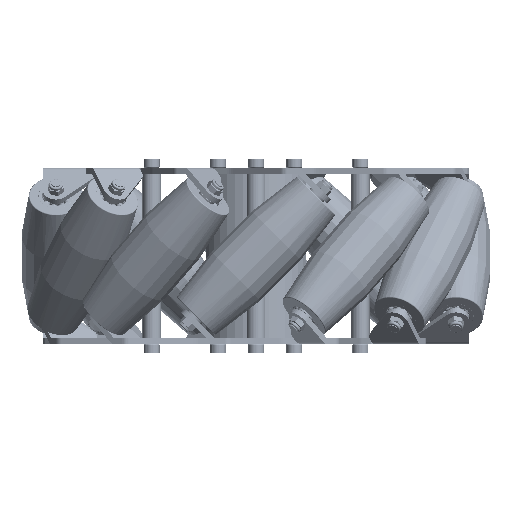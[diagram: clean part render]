
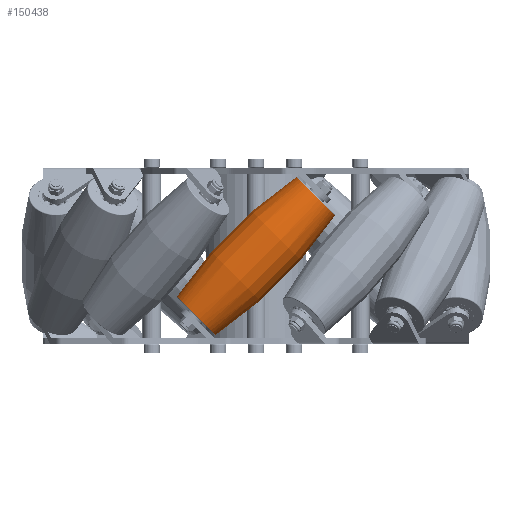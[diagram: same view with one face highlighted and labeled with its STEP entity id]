
A CAD part, left-side view. The second image highlights one B-rep face of the part: STEP entity #150438.
In plain terms, the highlighted face is a revolution surface.
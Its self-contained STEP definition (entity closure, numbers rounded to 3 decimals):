
#150312 = EDGE_CURVE('',#150313,#150315,#150317,.T.);
#150313 = VERTEX_POINT('',#150314);
#150314 = CARTESIAN_POINT('',(21.866,-107.9,42.616));
#150315 = VERTEX_POINT('',#150316);
#150316 = CARTESIAN_POINT('',(42.616,-107.9,21.866));
#150317 = SURFACE_CURVE('',#150318,(#150323,#150335),.PCURVE_S1.);
#150318 = CIRCLE('',#150319,14.673);
#150319 = AXIS2_PLACEMENT_3D('',#150320,#150321,#150322);
#150320 = CARTESIAN_POINT('',(32.241,-107.9,32.241));
#150321 = DIRECTION('',(0.707,0.,0.707
    ));
#150322 = DIRECTION('',(-0.707,0.,
    0.707));
#150323 = PCURVE('',#150324,#150329);
#150324 = TOROIDAL_SURFACE('',#150325,14.182,0.5);
#150325 = AXIS2_PLACEMENT_3D('',#150326,#150327,#150328);
#150326 = CARTESIAN_POINT('',(32.173,-107.9,32.173));
#150327 = DIRECTION('',(0.707,0.,0.707
    ));
#150328 = DIRECTION('',(0.707,0.,
    -0.707));
#150329 = DEFINITIONAL_REPRESENTATION('',(#150330),#150334);
#150330 = LINE('',#150331,#150332);
#150331 = CARTESIAN_POINT('',(-3.142,0.194));
#150332 = VECTOR('',#150333,1.);
#150333 = DIRECTION('',(1.,0.));
#150334 = ( GEOMETRIC_REPRESENTATION_CONTEXT(2) 
PARAMETRIC_REPRESENTATION_CONTEXT() REPRESENTATION_CONTEXT('2D SPACE',''
  ) );
#150335 = PCURVE('',#150336,#150348);
#150336 = SURFACE_OF_REVOLUTION('',#150337,#150345);
#150337 = B_SPLINE_CURVE_WITH_KNOTS('',6,(#150338,#150339,#150340,
    #150341,#150342,#150343,#150344),.UNSPECIFIED.,.F.,.F.,(7,7),(
    2.948,3.335),.PIECEWISE_BEZIER_KNOTS.);
#150338 = CARTESIAN_POINT('',(-21.866,-107.9,-42.616));
#150339 = CARTESIAN_POINT('',(-9.173,-107.9,-34.085));
#150340 = CARTESIAN_POINT('',(2.859,-107.9,-24.57));
#150341 = CARTESIAN_POINT('',(14.136,-107.9,-14.136));
#150342 = CARTESIAN_POINT('',(24.57,-107.9,-2.859));
#150343 = CARTESIAN_POINT('',(34.085,-107.9,9.173));
#150344 = CARTESIAN_POINT('',(42.616,-107.9,21.866));
#150345 = AXIS1_PLACEMENT('',#150346,#150347);
#150346 = CARTESIAN_POINT('',(0.,-107.9,
    0.));
#150347 = DIRECTION('',(-0.707,0.,
    -0.707));
#150348 = DEFINITIONAL_REPRESENTATION('',(#150349),#150353);
#150349 = LINE('',#150350,#150351);
#150350 = CARTESIAN_POINT('',(-3.142,3.335));
#150351 = VECTOR('',#150352,1.);
#150352 = DIRECTION('',(-1.,0.));
#150353 = ( GEOMETRIC_REPRESENTATION_CONTEXT(2) 
PARAMETRIC_REPRESENTATION_CONTEXT() REPRESENTATION_CONTEXT('2D SPACE',''
  ) );
#150438 = ADVANCED_FACE('',(#150439),#150336,.F.);
#150439 = FACE_BOUND('',#150440,.T.);
#150440 = EDGE_LOOP('',(#150441,#150477,#150506,#150528));
#150441 = ORIENTED_EDGE('',*,*,#150442,.T.);
#150442 = EDGE_CURVE('',#150313,#150443,#150445,.T.);
#150443 = VERTEX_POINT('',#150444);
#150444 = CARTESIAN_POINT('',(-42.616,-107.9,-21.866));
#150445 = SURFACE_CURVE('',#150446,(#150451,#150458),.PCURVE_S1.);
#150446 = CIRCLE('',#150447,237.);
#150447 = AXIS2_PLACEMENT_3D('',#150448,#150449,#150450);
#150448 = CARTESIAN_POINT('',(154.079,-107.9,
    -154.079));
#150449 = DIRECTION('',(0.,-1.,0.));
#150450 = DIRECTION('',(1.,0.,0.));
#150451 = PCURVE('',#150336,#150452);
#150452 = DEFINITIONAL_REPRESENTATION('',(#150453),#150457);
#150453 = LINE('',#150454,#150455);
#150454 = CARTESIAN_POINT('',(-3.142,5.498));
#150455 = VECTOR('',#150456,1.);
#150456 = DIRECTION('',(0.,-1.));
#150457 = ( GEOMETRIC_REPRESENTATION_CONTEXT(2) 
PARAMETRIC_REPRESENTATION_CONTEXT() REPRESENTATION_CONTEXT('2D SPACE',''
  ) );
#150458 = PCURVE('',#150459,#150471);
#150459 = SURFACE_OF_REVOLUTION('',#150460,#150468);
#150460 = B_SPLINE_CURVE_WITH_KNOTS('',6,(#150461,#150462,#150463,
    #150464,#150465,#150466,#150467),.UNSPECIFIED.,.F.,.F.,(7,7),(
    2.948,3.335),.PIECEWISE_BEZIER_KNOTS.);
#150461 = CARTESIAN_POINT('',(-21.866,-107.9,-42.616));
#150462 = CARTESIAN_POINT('',(-9.173,-107.9,-34.085));
#150463 = CARTESIAN_POINT('',(2.859,-107.9,-24.57));
#150464 = CARTESIAN_POINT('',(14.136,-107.9,-14.136));
#150465 = CARTESIAN_POINT('',(24.57,-107.9,-2.859));
#150466 = CARTESIAN_POINT('',(34.085,-107.9,9.173));
#150467 = CARTESIAN_POINT('',(42.616,-107.9,21.866));
#150468 = AXIS1_PLACEMENT('',#150469,#150470);
#150469 = CARTESIAN_POINT('',(0.,-107.9,
    0.));
#150470 = DIRECTION('',(-0.707,0.,
    -0.707));
#150471 = DEFINITIONAL_REPRESENTATION('',(#150472),#150476);
#150472 = LINE('',#150473,#150474);
#150473 = CARTESIAN_POINT('',(-3.142,5.498));
#150474 = VECTOR('',#150475,1.);
#150475 = DIRECTION('',(0.,-1.));
#150476 = ( GEOMETRIC_REPRESENTATION_CONTEXT(2) 
PARAMETRIC_REPRESENTATION_CONTEXT() REPRESENTATION_CONTEXT('2D SPACE',''
  ) );
#150477 = ORIENTED_EDGE('',*,*,#150478,.F.);
#150478 = EDGE_CURVE('',#150479,#150443,#150481,.T.);
#150479 = VERTEX_POINT('',#150480);
#150480 = CARTESIAN_POINT('',(-21.866,-107.9,-42.616));
#150481 = SURFACE_CURVE('',#150482,(#150487,#150494),.PCURVE_S1.);
#150482 = CIRCLE('',#150483,14.673);
#150483 = AXIS2_PLACEMENT_3D('',#150484,#150485,#150486);
#150484 = CARTESIAN_POINT('',(-32.241,-107.9,-32.241));
#150485 = DIRECTION('',(-0.707,0.,
    -0.707));
#150486 = DIRECTION('',(0.707,0.,
    -0.707));
#150487 = PCURVE('',#150336,#150488);
#150488 = DEFINITIONAL_REPRESENTATION('',(#150489),#150493);
#150489 = LINE('',#150490,#150491);
#150490 = CARTESIAN_POINT('',(-6.283,2.948));
#150491 = VECTOR('',#150492,1.);
#150492 = DIRECTION('',(1.,-0.));
#150493 = ( GEOMETRIC_REPRESENTATION_CONTEXT(2) 
PARAMETRIC_REPRESENTATION_CONTEXT() REPRESENTATION_CONTEXT('2D SPACE',''
  ) );
#150494 = PCURVE('',#150495,#150500);
#150495 = TOROIDAL_SURFACE('',#150496,14.182,0.5);
#150496 = AXIS2_PLACEMENT_3D('',#150497,#150498,#150499);
#150497 = CARTESIAN_POINT('',(-32.173,-107.9,-32.173));
#150498 = DIRECTION('',(-0.707,0.,
    -0.707));
#150499 = DIRECTION('',(-0.707,0.,
    0.707));
#150500 = DEFINITIONAL_REPRESENTATION('',(#150501),#150505);
#150501 = LINE('',#150502,#150503);
#150502 = CARTESIAN_POINT('',(-3.142,0.194));
#150503 = VECTOR('',#150504,1.);
#150504 = DIRECTION('',(1.,0.));
#150505 = ( GEOMETRIC_REPRESENTATION_CONTEXT(2) 
PARAMETRIC_REPRESENTATION_CONTEXT() REPRESENTATION_CONTEXT('2D SPACE',''
  ) );
#150506 = ORIENTED_EDGE('',*,*,#150507,.F.);
#150507 = EDGE_CURVE('',#150315,#150479,#150508,.T.);
#150508 = SURFACE_CURVE('',#150509,(#150514,#150521),.PCURVE_S1.);
#150509 = CIRCLE('',#150510,237.);
#150510 = AXIS2_PLACEMENT_3D('',#150511,#150512,#150513);
#150511 = CARTESIAN_POINT('',(-154.079,-107.9,154.079));
#150512 = DIRECTION('',(0.,1.,0.));
#150513 = DIRECTION('',(0.,0.,1.));
#150514 = PCURVE('',#150336,#150515);
#150515 = DEFINITIONAL_REPRESENTATION('',(#150516),#150520);
#150516 = LINE('',#150517,#150518);
#150517 = CARTESIAN_POINT('',(-6.283,5.498));
#150518 = VECTOR('',#150519,1.);
#150519 = DIRECTION('',(-0.,-1.));
#150520 = ( GEOMETRIC_REPRESENTATION_CONTEXT(2) 
PARAMETRIC_REPRESENTATION_CONTEXT() REPRESENTATION_CONTEXT('2D SPACE',''
  ) );
#150521 = PCURVE('',#150459,#150522);
#150522 = DEFINITIONAL_REPRESENTATION('',(#150523),#150527);
#150523 = LINE('',#150524,#150525);
#150524 = CARTESIAN_POINT('',(-0.,5.498));
#150525 = VECTOR('',#150526,1.);
#150526 = DIRECTION('',(-0.,-1.));
#150527 = ( GEOMETRIC_REPRESENTATION_CONTEXT(2) 
PARAMETRIC_REPRESENTATION_CONTEXT() REPRESENTATION_CONTEXT('2D SPACE',''
  ) );
#150528 = ORIENTED_EDGE('',*,*,#150312,.F.);
